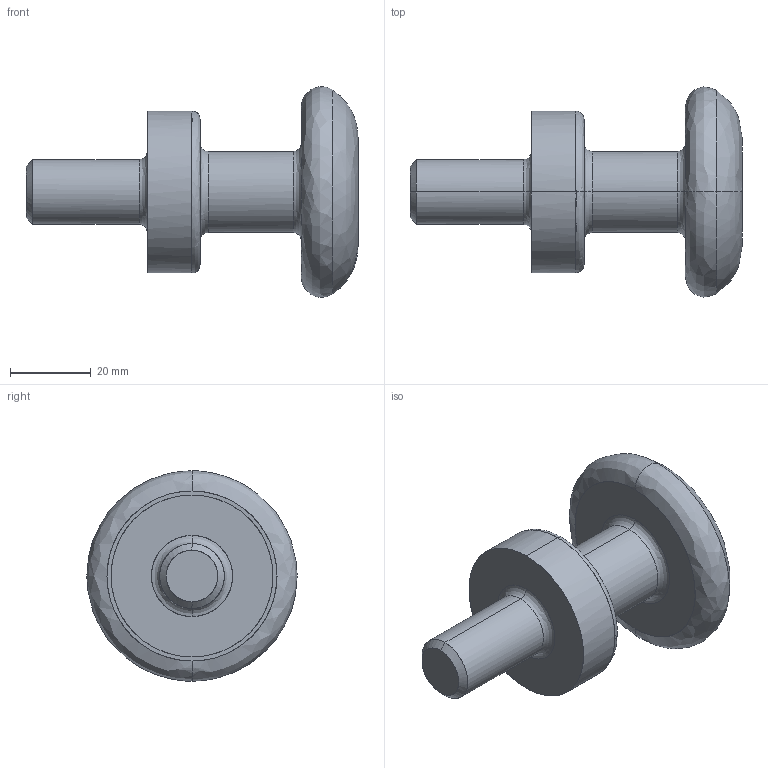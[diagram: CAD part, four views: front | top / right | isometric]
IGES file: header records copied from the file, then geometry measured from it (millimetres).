
Global section: file name: E:\UnigraphicsGraphicData\MISUMI_PRESS-PARTS\IGES\3d_chnl16_03547_r00.igs; native system: NX V5.0; preprocessor: UGS NX IGES V5.0; author: MISUMI; date: 20110105.160221; units: millimetre
Bounding box: 82 x 51.95 x 51.97 mm (x, y, z)
Surface area: 12071 mm2 (no closed solid volume)
Topology: 0 solids, 0 shells, 32 faces, 212 edges, 212 vertices
Faces by surface type: bspline 32
